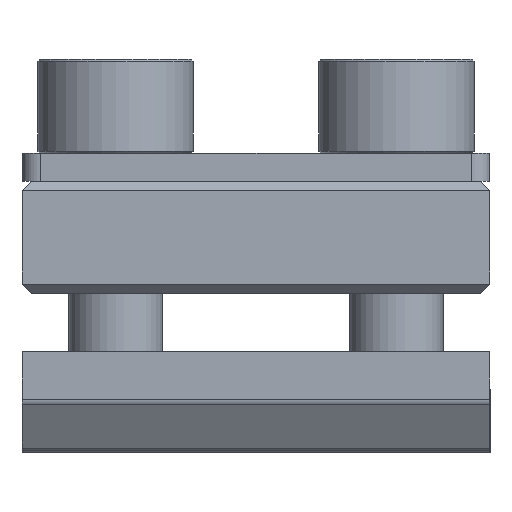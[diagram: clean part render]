
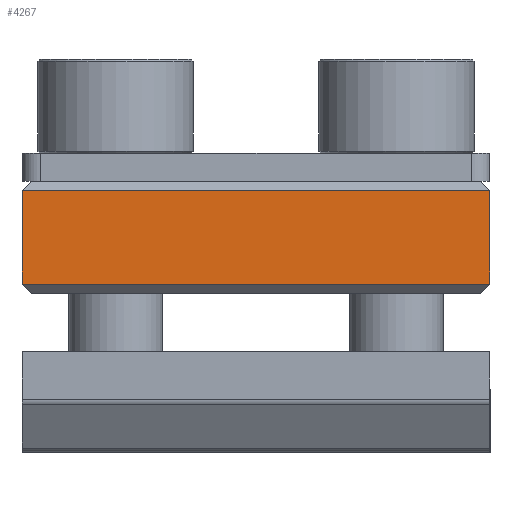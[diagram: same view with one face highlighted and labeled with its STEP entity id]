
A CAD part, front view. The second image highlights one B-rep face of the part: STEP entity #4267.
In plain terms, the highlighted planar face has unit normal (0, -1, 0).
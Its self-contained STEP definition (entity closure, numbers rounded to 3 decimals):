
#6 = EDGE_CURVE ( 'NONE', #603, #4144, #2240, .T. ) ;
#41 = DIRECTION ( 'NONE',  ( 0., -1., 0. ) ) ;
#50 = VECTOR ( 'NONE', #901, 1000. ) ;
#140 = ORIENTED_EDGE ( 'NONE', *, *, #306, .F. ) ;
#306 = EDGE_CURVE ( 'NONE', #1357, #4144, #4418, .T. ) ;
#453 = DIRECTION ( 'NONE',  ( 0., 0., -1. ) ) ;
#563 = AXIS2_PLACEMENT_3D ( 'NONE', #774, #41, #4348 ) ;
#603 = VERTEX_POINT ( 'NONE', #1397 ) ;
#774 = CARTESIAN_POINT ( 'NONE',  ( 0., -52.5, 6. ) ) ;
#843 = VECTOR ( 'NONE', #4169, 1000. ) ;
#901 = DIRECTION ( 'NONE',  ( 1., 0., 0. ) ) ;
#1357 = VERTEX_POINT ( 'NONE', #2465 ) ;
#1397 = CARTESIAN_POINT ( 'NONE',  ( -12.5, -52.5, 0.5 ) ) ;
#1436 = FACE_OUTER_BOUND ( 'NONE', #2999, .T. ) ;
#1489 = PLANE ( 'NONE',  #563 ) ;
#1533 = EDGE_CURVE ( 'NONE', #1357, #4221, #2176, .T. ) ;
#2056 = LINE ( 'NONE', #4097, #2322 ) ;
#2176 = LINE ( 'NONE', #3503, #843 ) ;
#2240 = LINE ( 'NONE', #3022, #50 ) ;
#2322 = VECTOR ( 'NONE', #3774, 1000. ) ;
#2351 = ORIENTED_EDGE ( 'NONE', *, *, #6, .T. ) ;
#2465 = CARTESIAN_POINT ( 'NONE',  ( 12.5, -52.5, 5.5 ) ) ;
#2586 = CARTESIAN_POINT ( 'NONE',  ( 12.5, -52.5, 6. ) ) ;
#2676 = ORIENTED_EDGE ( 'NONE', *, *, #3168, .T. ) ;
#2805 = ORIENTED_EDGE ( 'NONE', *, *, #1533, .T. ) ;
#2999 = EDGE_LOOP ( 'NONE', ( #140, #2805, #2676, #2351 ) ) ;
#3022 = CARTESIAN_POINT ( 'NONE',  ( 12.5, -52.5, 0.5 ) ) ;
#3168 = EDGE_CURVE ( 'NONE', #4221, #603, #2056, .T. ) ;
#3490 = CARTESIAN_POINT ( 'NONE',  ( 12.5, -52.5, 0.5 ) ) ;
#3503 = CARTESIAN_POINT ( 'NONE',  ( 0., -52.5, 5.5 ) ) ;
#3774 = DIRECTION ( 'NONE',  ( 0., 0., -1. ) ) ;
#3800 = VECTOR ( 'NONE', #453, 1000. ) ;
#4097 = CARTESIAN_POINT ( 'NONE',  ( -12.5, -52.5, 6. ) ) ;
#4144 = VERTEX_POINT ( 'NONE', #3490 ) ;
#4169 = DIRECTION ( 'NONE',  ( -1., 0., 0. ) ) ;
#4221 = VERTEX_POINT ( 'NONE', #4582 ) ;
#4267 = ADVANCED_FACE ( 'NONE', ( #1436 ), #1489, .T. ) ;
#4348 = DIRECTION ( 'NONE',  ( 0., 0., -1. ) ) ;
#4418 = LINE ( 'NONE', #2586, #3800 ) ;
#4582 = CARTESIAN_POINT ( 'NONE',  ( -12.5, -52.5, 5.5 ) ) ;
